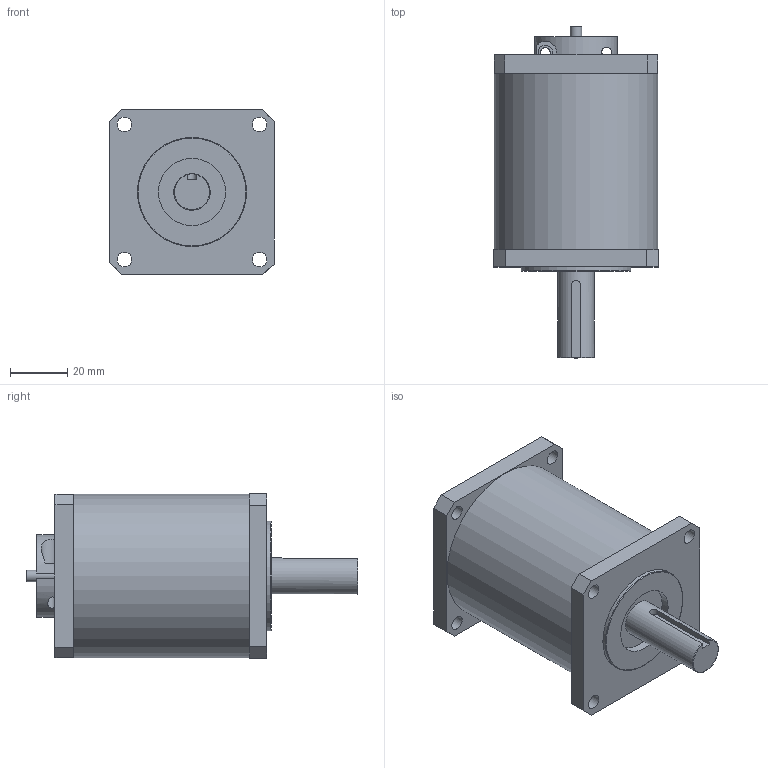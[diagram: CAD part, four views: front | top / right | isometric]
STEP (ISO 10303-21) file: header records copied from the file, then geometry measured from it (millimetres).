
FILE_DESCRIPTION( ( 'Unknown' ), '1' );
FILE_NAME( 'K:/Tegninger - Vare/Gear/HMGH/LT0131.stp', 'Unknown', ( 'Unknown' ), ( 'Unknown' ), 'PSStep 10.1', 'Unknown', ' ' );
FILE_SCHEMA( ( 'AUTOMOTIVE_DESIGN { 1 0 10303 214 1 1 1 1 }' ) );
Length unit declared in the file: millimetre
Products named in the file (6): Assem1; Planetary gear 3 scale 1; Shaft for motor; Bush for shaft; M4x12 hex
Bounding box: 57.4 x 115.9 x 57.4 mm (x, y, z)
Volume: 366451.7 mm3; surface area: 66750.1 mm2
Topology: 11 solids, 11 shells, 201 faces, 472 edges, 321 vertices
Faces by surface type: plane 130, cylinder 64, torus 7
Full cylindrical faces by diameter (mm): 3.4 x4, 4 x3, 5 x4, 5.1 x16, 6.37 x2, 6.9 x3, 12.7 x4, 16 x4, 23.4 x2, 35 x2, 38.1 x2, 38.18 x2, 57 x2
Entity records: 3580 total; most frequent: CARTESIAN_POINT 637, DIRECTION 443, ORIENTED_EDGE 364, EDGE_CURVE 182, AXIS2_PLACEMENT_3D 167, EDGE_LOOP 157, VERTEX_POINT 137, FACE_OUTER_BOUND 120
